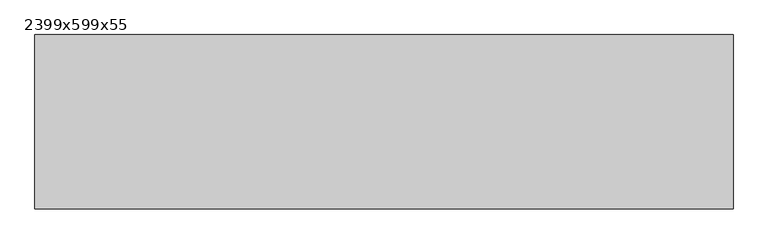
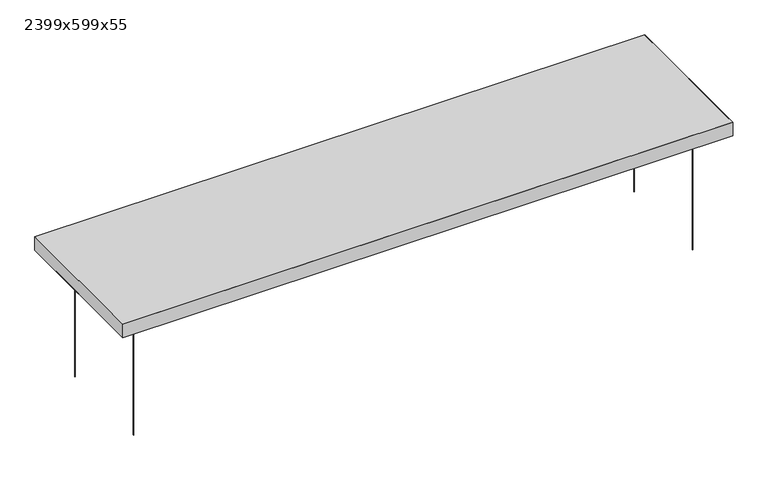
"""IFC4 building model written with IfcOpenShell, lengths in millimetres: proxy geometry, Texaa_Plafond respirant_Strato_Panneaux respirant : 2399x599x55."""

from ifc_helpers import new_model, si_unit, point, frame_2d, origin, origin_with_axes, place, context, project, spatial, circle_curve, trimmed, segment, composite_curve, outline, extrude, faceted_brep, source, transform, mapped, element, save


def proxy_2399x599x55_ef89b4d6(model_context):
    return source(origin(), model_context, "Body", "SolidModel", [
        faceted_brep([(-1198.5, -298.5, 501.0), (1198.5, -298.5, 501.0), (1198.5, -298.5, 554.0), (-1198.5, -298.5, 554.0), (-1169.5, -269.5, 539.5411334), (1169.5, -269.5, 539.5411334), (1169.5, -269.5, 501.0), (-1169.5, -269.5, 501.0), (1198.5, 298.5, 501.0), (1198.5, 298.5, 554.0), (1169.5, 269.5, 539.5411334), (1169.5, 269.5, 501.0), (-1198.5, 298.5, 501.0), (-1198.5, 298.5, 554.0), (-1169.5, 269.5, 539.5411334), (-1169.5, 269.5, 501.0)], [[[0, 1, 2, 3]], [[4, 5, 6, 7]], [[1, 8, 9, 2]], [[5, 10, 11, 6]], [[8, 12, 13, 9]], [[10, 14, 15, 11]], [[12, 0, 3, 13]], [[14, 4, 7, 15]], [[1, 0, 12, 8], [7, 6, 11, 15]], [[3, 2, 5, 4]], [[2, 9, 10, 5]], [[9, 13, 14, 10]], [[13, 3, 4, 14]]]),
        extrude(outline(composite_curve([segment(trimmed(circle_curve(frame_2d((-1099.5, -199.5)), 0.75), [point((-1100.25, -199.5))], [point((-1098.75, -199.5))], False, "CARTESIAN"), True, "CONTINUOUS"), segment(trimmed(circle_curve(frame_2d((-1099.5, -199.5)), 0.75), [point((-1098.75, -199.5))], [point((-1100.25, -199.5))], False, "CARTESIAN"), True, "CONTINUOUS")], self_intersect=False)), origin_with_axes(), (0.0, 0.0, 1.0), 500.0),
        extrude(outline(composite_curve([segment(trimmed(circle_curve(frame_2d((1099.5, -199.5)), 0.75), [point((1098.75, -199.5))], [point((1100.25, -199.5))], False, "CARTESIAN"), True, "CONTINUOUS"), segment(trimmed(circle_curve(frame_2d((1099.5, -199.5)), 0.75), [point((1100.25, -199.5))], [point((1098.75, -199.5))], False, "CARTESIAN"), True, "CONTINUOUS")], self_intersect=False)), origin_with_axes(), (0.0, 0.0, 1.0), 500.0),
        extrude(outline(composite_curve([segment(trimmed(circle_curve(frame_2d((1099.5, 199.5)), 0.75), [point((1098.75, 199.5))], [point((1100.25, 199.5))], False, "CARTESIAN"), True, "CONTINUOUS"), segment(trimmed(circle_curve(frame_2d((1099.5, 199.5)), 0.75), [point((1100.25, 199.5))], [point((1098.75, 199.5))], False, "CARTESIAN"), True, "CONTINUOUS")], self_intersect=False)), origin_with_axes(), (0.0, 0.0, 1.0), 500.0),
        extrude(outline(composite_curve([segment(trimmed(circle_curve(frame_2d((-1099.5, 199.5)), 0.75), [point((-1100.25, 199.5))], [point((-1098.75, 199.5))], False, "CARTESIAN"), True, "CONTINUOUS"), segment(trimmed(circle_curve(frame_2d((-1099.5, 199.5)), 0.75), [point((-1098.75, 199.5))], [point((-1100.25, 199.5))], False, "CARTESIAN"), True, "CONTINUOUS")], self_intersect=False)), origin_with_axes(), (0.0, 0.0, 1.0), 500.0),
        faceted_brep([(-1199.5, -299.5, 555.0), (1199.5, -299.5, 555.0), (1199.5, 299.5, 555.0), (-1199.5, 299.5, 555.0), (-1199.5, -299.5, 500.0), (-1199.5, 299.5, 500.0), (1199.5, 299.5, 500.0), (1199.5, -299.5, 500.0), (-1169.5, 269.5, 500.0), (-1169.5, -269.5, 500.0), (1169.5, -269.5, 500.0), (1169.5, 269.5, 500.0), (1169.5, 269.5, 501.0), (-1169.5, 269.5, 501.0), (1169.5, -269.5, 501.0), (-1169.5, -269.5, 501.0), (-1198.5, -298.5, 554.0), (-1198.5, 298.5, 554.0), (1198.5, 298.5, 554.0), (1198.5, -298.5, 554.0), (-1198.5, -298.5, 501.0), (1198.5, -298.5, 501.0), (1198.5, 298.5, 501.0), (-1198.5, 298.5, 501.0)], [[[0, 1, 2, 3]], [[4, 5, 6, 7], [8, 9, 10, 11]], [[3, 5, 4, 0]], [[2, 6, 5, 3]], [[1, 7, 6, 2]], [[0, 4, 7, 1]], [[8, 11, 12, 13]], [[11, 10, 14, 12]], [[10, 9, 15, 14]], [[13, 15, 9, 8]], [[16, 17, 18, 19]], [[20, 21, 22, 23], [12, 14, 15, 13]], [[16, 20, 23, 17]], [[17, 23, 22, 18]], [[18, 22, 21, 19]], [[19, 21, 20, 16]]]),
    ])


if __name__ == "__main__":
    model = new_model("IFC4")
    model_context = context("Model", 3, world=origin())
    ifc_project = project(units=[si_unit("LENGTHUNIT", "METRE", prefix="MILLI")], contexts=[model_context])
    site = spatial("IfcSite", under=ifc_project)
    building = spatial("IfcBuilding", under=site)
    placement = place(None, origin())
    proxy_2399x599x55_shape = proxy_2399x599x55_ef89b4d6(model_context)
    element("IfcBuildingElementProxy", 1, Name="Texaa_Plafond respirant_Strato_Panneaux respirant : 2399x599x55", ObjectType="Texaa_Plafond respirant_Strato_Panneaux respirant : 2399x599x55", at=placement, inside=building, context=model_context, shape_type="MappedRepresentation", body=[
        mapped(proxy_2399x599x55_shape, transform((0.0, 0.0, 0.0), x_axis=(1.0, 0.0, 0.0), y_axis=(0.0, 1.0, 0.0), z_axis=(0.0, 0.0, 1.0))),
    ])
    save(model, "model.ifc")
